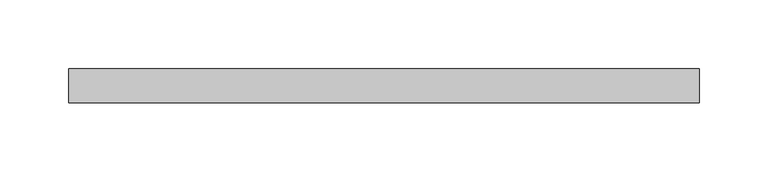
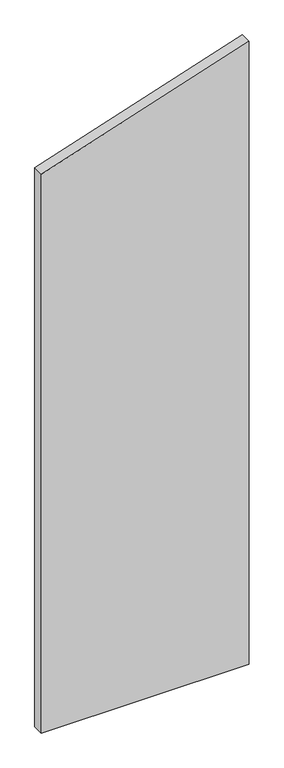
"""IFC4 building model written with IfcOpenShell, lengths in millimetres: plate geometry, Системная панель : ADSK_Cтеклопакет_25 мм."""

from ifc_helpers import new_model, si_unit, frame, origin, place, context, project, spatial, polyline, outline, extrude, source, transform, mapped, element, save


def plate_e0450a71(model_context):
    return source(origin(), model_context, "Body", "SweptSolid", [
        extrude(outline(polyline([(0.0, -230.0), (0.0, 230.0), (1457.80045, 230.0), (1308.3373897, -230.0), (0.0, -230.0)])), frame((0.0, -12.5, 0.0), z_axis=(0.0, 1.0, 0.0), x_axis=(0.0, 0.0, 1.0)), (0.0, 0.0, 1.0), 25.0),
    ])


if __name__ == "__main__":
    model = new_model("IFC4")
    model_context = context("Model", 3, world=origin())
    ifc_project = project(units=[si_unit("LENGTHUNIT", "METRE", prefix="MILLI")], contexts=[model_context])
    site = spatial("IfcSite", under=ifc_project)
    building = spatial("IfcBuilding", under=site)
    placement = place(None, origin())
    plate_shape = plate_e0450a71(model_context)
    element("IfcPlate", 1, ObjectType="Системная панель : ADSK_Cтеклопакет_25 мм", at=placement, inside=building, context=model_context, shape_type="MappedRepresentation", body=[
        mapped(plate_shape, transform((0.0, 0.0, 0.0), x_axis=(1.0, 0.0, 0.0), y_axis=(0.0, 1.0, 0.0), z_axis=(0.0, 0.0, 1.0))),
    ])
    save(model, "model.ifc")
